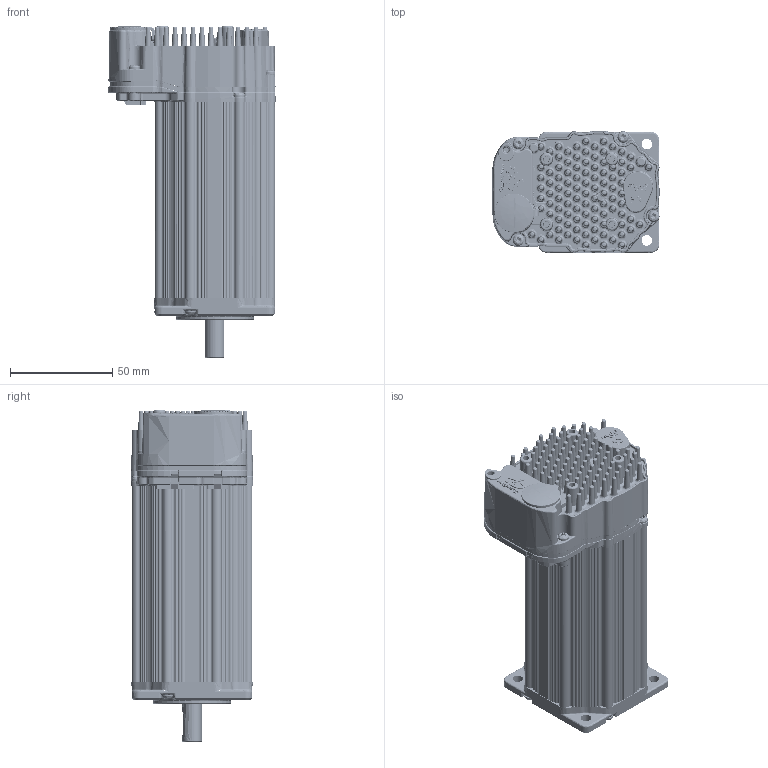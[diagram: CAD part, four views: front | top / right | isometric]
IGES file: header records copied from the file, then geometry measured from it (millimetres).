
Start section: SolidWorks IGES file using analytic representation for surfaces
Global section: file name: C:\TeknicPDM\Clearpath\Customer Downloadable Files\CPM-_ _ _ _ -234x_-LS.IGS; native system: SolidWorks 2020; preprocessor: SolidWorks 2020; author: matt_ciminelli; date: 220624.083425; units: inch
Bounding box: 81.98 x 59.69 x 162.7 mm (x, y, z)
Surface area: 83996.6 mm2 (no closed solid volume)
Topology: 0 solids, 0 shells, 7359 faces, 71928 edges, 71663 vertices
Faces by surface type: revolution 3865, bspline 3494
